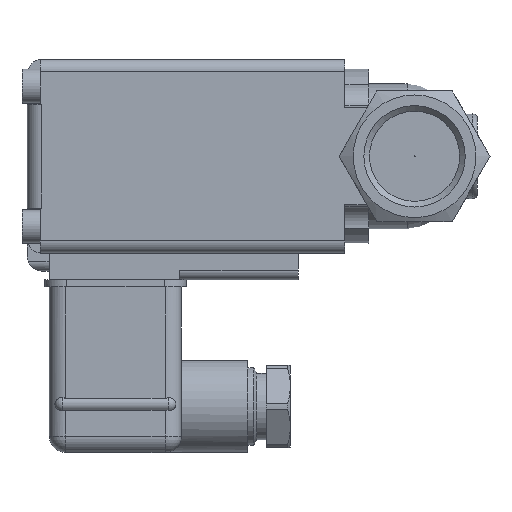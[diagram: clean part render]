
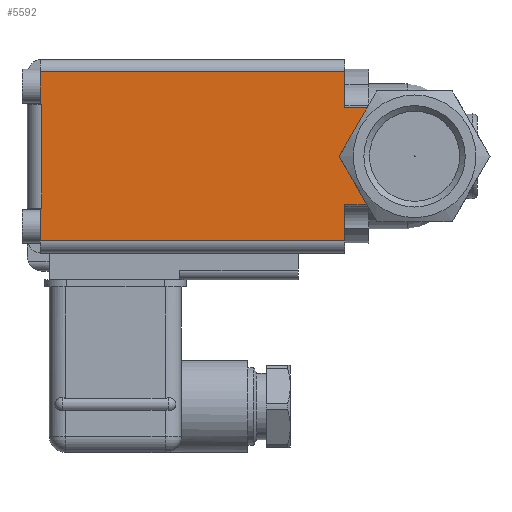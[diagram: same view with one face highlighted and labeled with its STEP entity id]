
A CAD part, left-side view. The second image highlights one B-rep face of the part: STEP entity #5592.
In plain terms, the highlighted planar face has unit normal (-1, 0, 0).
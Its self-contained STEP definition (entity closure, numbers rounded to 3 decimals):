
#85=CIRCLE('',#5868,14.);
#86=CIRCLE('',#5869,14.);
#526=ORIENTED_EDGE('',*,*,#1689,.F.);
#527=ORIENTED_EDGE('',*,*,#1690,.F.);
#528=ORIENTED_EDGE('',*,*,#1691,.T.);
#529=ORIENTED_EDGE('',*,*,#1692,.F.);
#530=ORIENTED_EDGE('',*,*,#1693,.T.);
#531=ORIENTED_EDGE('',*,*,#1694,.T.);
#532=ORIENTED_EDGE('',*,*,#1695,.T.);
#533=ORIENTED_EDGE('',*,*,#1696,.T.);
#534=ORIENTED_EDGE('',*,*,#1697,.F.);
#535=ORIENTED_EDGE('',*,*,#1698,.T.);
#536=ORIENTED_EDGE('',*,*,#1699,.T.);
#537=ORIENTED_EDGE('',*,*,#1700,.F.);
#538=ORIENTED_EDGE('',*,*,#1701,.T.);
#539=ORIENTED_EDGE('',*,*,#1702,.T.);
#540=ORIENTED_EDGE('',*,*,#1703,.F.);
#1689=EDGE_CURVE('',#2257,#2258,#2615,.T.);
#1690=EDGE_CURVE('',#2259,#2257,#2616,.T.);
#1691=EDGE_CURVE('',#2259,#2260,#2617,.T.);
#1692=EDGE_CURVE('',#2261,#2260,#2618,.T.);
#1693=EDGE_CURVE('',#2261,#2262,#85,.T.);
#1694=EDGE_CURVE('',#2262,#2263,#2619,.T.);
#1695=EDGE_CURVE('',#2263,#2264,#2620,.T.);
#1696=EDGE_CURVE('',#2264,#2265,#86,.T.);
#1697=EDGE_CURVE('',#2266,#2265,#2621,.T.);
#1698=EDGE_CURVE('',#2266,#2267,#2622,.T.);
#1699=EDGE_CURVE('',#2267,#2268,#2623,.T.);
#1700=EDGE_CURVE('',#2269,#2268,#2624,.T.);
#1701=EDGE_CURVE('',#2269,#2270,#2625,.T.);
#1702=EDGE_CURVE('',#2270,#2271,#2626,.T.);
#1703=EDGE_CURVE('',#2258,#2271,#2627,.T.);
#2257=VERTEX_POINT('',#7714);
#2258=VERTEX_POINT('',#7715);
#2259=VERTEX_POINT('',#7717);
#2260=VERTEX_POINT('',#7719);
#2261=VERTEX_POINT('',#7721);
#2262=VERTEX_POINT('',#7723);
#2263=VERTEX_POINT('',#7725);
#2264=VERTEX_POINT('',#7727);
#2265=VERTEX_POINT('',#7729);
#2266=VERTEX_POINT('',#7731);
#2267=VERTEX_POINT('',#7733);
#2268=VERTEX_POINT('',#7735);
#2269=VERTEX_POINT('',#7737);
#2270=VERTEX_POINT('',#7739);
#2271=VERTEX_POINT('',#7741);
#2615=LINE('',#7713,#2949);
#2616=LINE('',#7716,#2950);
#2617=LINE('',#7718,#2951);
#2618=LINE('',#7720,#2952);
#2619=LINE('',#7724,#2953);
#2620=LINE('',#7726,#2954);
#2621=LINE('',#7730,#2955);
#2622=LINE('',#7732,#2956);
#2623=LINE('',#7734,#2957);
#2624=LINE('',#7736,#2958);
#2625=LINE('',#7738,#2959);
#2626=LINE('',#7740,#2960);
#2627=LINE('',#7742,#2961);
#2949=VECTOR('',#6406,1000.);
#2950=VECTOR('',#6407,1000.);
#2951=VECTOR('',#6408,1000.);
#2952=VECTOR('',#6409,1000.);
#2953=VECTOR('',#6412,1000.);
#2954=VECTOR('',#6413,1000.);
#2955=VECTOR('',#6416,1000.);
#2956=VECTOR('',#6417,1000.);
#2957=VECTOR('',#6418,1000.);
#2958=VECTOR('',#6419,1000.);
#2959=VECTOR('',#6420,1000.);
#2960=VECTOR('',#6421,1000.);
#2961=VECTOR('',#6422,1000.);
#3239=EDGE_LOOP('',(#526,#527,#528,#529,#530,#531,#532,#533,#534,#535,#536,
#537,#538,#539,#540));
#3513=FACE_BOUND('',#3239,.T.);
#3769=PLANE('',#5867);
#5592=ADVANCED_FACE('',(#3513),#3769,.F.);
#5867=AXIS2_PLACEMENT_3D('',#7712,#6404,#6405);
#5868=AXIS2_PLACEMENT_3D('',#7722,#6410,#6411);
#5869=AXIS2_PLACEMENT_3D('',#7728,#6414,#6415);
#6404=DIRECTION('',(1.,0.,0.));
#6405=DIRECTION('',(0.,0.,-1.));
#6406=DIRECTION('',(0.,0.,1.));
#6407=DIRECTION('',(0.,1.,0.));
#6408=DIRECTION('',(0.,0.,1.));
#6409=DIRECTION('',(0.,1.,0.));
#6410=DIRECTION('',(1.,0.,0.));
#6411=DIRECTION('',(0.,0.,-1.));
#6412=DIRECTION('',(0.,0.5,0.866));
#6413=DIRECTION('',(0.,-0.5,0.866));
#6414=DIRECTION('',(1.,0.,0.));
#6415=DIRECTION('',(0.,0.,-1.));
#6416=DIRECTION('',(0.,-1.,0.));
#6417=DIRECTION('',(0.,0.,1.));
#6418=DIRECTION('',(0.,1.,0.));
#6419=DIRECTION('',(0.,0.,1.));
#6420=DIRECTION('',(0.,-1.,0.));
#6421=DIRECTION('',(0.,0.,-1.));
#6422=DIRECTION('',(0.,-1.,0.));
#7712=CARTESIAN_POINT('',(-20.,0.,0.));
#7713=CARTESIAN_POINT('',(-20.,53.3,0.));
#7714=CARTESIAN_POINT('',(-20.,53.3,-17.5));
#7715=CARTESIAN_POINT('',(-20.,53.3,-10.7));
#7716=CARTESIAN_POINT('',(-20.,-9.6,-17.5));
#7717=CARTESIAN_POINT('',(-20.,-9.6,-17.5));
#7718=CARTESIAN_POINT('',(-20.,-9.6,-17.5));
#7719=CARTESIAN_POINT('',(-20.,-9.6,-10.));
#7720=CARTESIAN_POINT('',(-20.,-24.,-10.));
#7721=CARTESIAN_POINT('',(-20.,-14.202,-10.));
#7722=CARTESIAN_POINT('',(-20.,-24.,0.));
#7723=CARTESIAN_POINT('',(-20.,-14.163,-9.961));
#7724=CARTESIAN_POINT('',(-20.,-16.206,-13.5));
#7725=CARTESIAN_POINT('',(-20.,-8.412,0.));
#7726=CARTESIAN_POINT('',(-20.,-8.412,0.));
#7727=CARTESIAN_POINT('',(-20.,-14.163,9.961));
#7728=CARTESIAN_POINT('',(-20.,-24.,0.));
#7729=CARTESIAN_POINT('',(-20.,-14.202,10.));
#7730=CARTESIAN_POINT('',(-20.,0.,10.));
#7731=CARTESIAN_POINT('',(-20.,-9.6,10.));
#7732=CARTESIAN_POINT('',(-20.,-9.6,-17.5));
#7733=CARTESIAN_POINT('',(-20.,-9.6,17.5));
#7734=CARTESIAN_POINT('',(-20.,-9.6,17.5));
#7735=CARTESIAN_POINT('',(-20.,53.3,17.5));
#7736=CARTESIAN_POINT('',(-20.,53.3,0.));
#7737=CARTESIAN_POINT('',(-20.,53.3,10.7));
#7738=CARTESIAN_POINT('',(-20.,58.,10.7));
#7739=CARTESIAN_POINT('',(-20.,53.,10.7));
#7740=CARTESIAN_POINT('',(-20.,53.,10.7));
#7741=CARTESIAN_POINT('',(-20.,53.,-10.7));
#7742=CARTESIAN_POINT('',(-20.,58.,-10.7));
